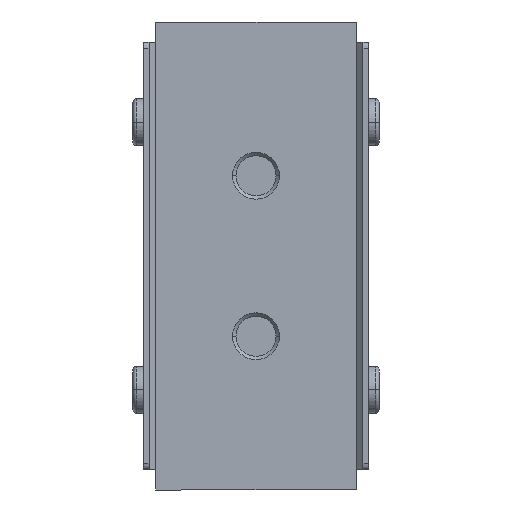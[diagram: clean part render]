
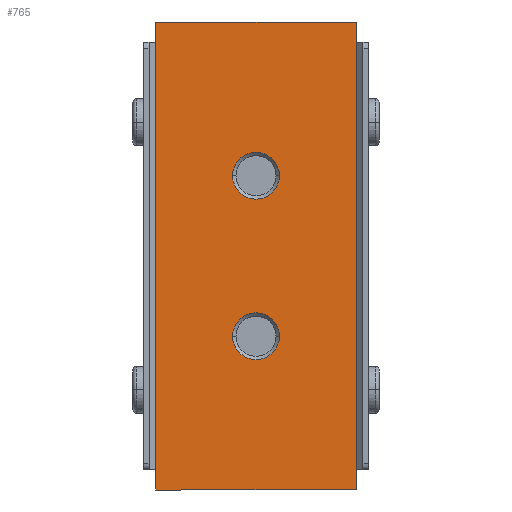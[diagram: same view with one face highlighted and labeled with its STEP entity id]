
A CAD part, left-side view. The second image highlights one B-rep face of the part: STEP entity #765.
In plain terms, the highlighted planar face has unit normal (-1, 0, 0) as drawn and (1, 0, 0) by its records, which use the part's own axes.
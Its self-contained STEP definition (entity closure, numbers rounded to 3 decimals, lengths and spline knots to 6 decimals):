
#765=ADVANCED_FACE('0:2294',(#1583,#1584,#1585),#1586,.F.);
#1583=FACE_OUTER_BOUND('',#2593,.T.);
#1584=FACE_BOUND('',#2594,.T.);
#1585=FACE_BOUND('',#2595,.T.);
#1586=PLANE('',#2596);
#2593=EDGE_LOOP('',(#3960,#3961,#3962,#3963));
#2594=EDGE_LOOP('',(#3964,#3965));
#2595=EDGE_LOOP('',(#3966,#3967));
#2596=AXIS2_PLACEMENT_3D('',#3968,#3969,#3970);
#3960=ORIENTED_EDGE('',*,*,#6288,.F.);
#3961=ORIENTED_EDGE('',*,*,#6290,.T.);
#3962=ORIENTED_EDGE('',*,*,#6231,.F.);
#3963=ORIENTED_EDGE('',*,*,#6259,.F.);
#3964=ORIENTED_EDGE('',*,*,#6174,.F.);
#3965=ORIENTED_EDGE('',*,*,#6135,.F.);
#3966=ORIENTED_EDGE('',*,*,#6172,.F.);
#3967=ORIENTED_EDGE('',*,*,#6140,.F.);
#3968=CARTESIAN_POINT('',(0.067315,0.042372,0.009));
#3969=DIRECTION('',(-1.0,0.0,0.0));
#3970=DIRECTION('',(0.0,0.0,1.0));
#6135=EDGE_CURVE('',#7244,#7246,#7247,.T.);
#6140=EDGE_CURVE('',#7251,#7253,#7254,.T.);
#6172=EDGE_CURVE('0:2354',#7253,#7251,#7298,.T.);
#6174=EDGE_CURVE('0:2360',#7246,#7244,#7300,.T.);
#6231=EDGE_CURVE('0:2483',#7364,#7366,#7367,.T.);
#6259=EDGE_CURVE('0:2531',#7405,#7364,#7407,.T.);
#6288=EDGE_CURVE('0:2591',#7444,#7405,#7446,.T.);
#6290=EDGE_CURVE('0:2594',#7444,#7366,#7448,.T.);
#7244=VERTEX_POINT('',#8796);
#7246=VERTEX_POINT('',#8799);
#7247=CIRCLE('',#8800,0.0035);
#7251=VERTEX_POINT('',#8805);
#7253=VERTEX_POINT('',#8808);
#7254=CIRCLE('',#8809,0.0035);
#7298=CIRCLE('',#8862,0.0035);
#7300=CIRCLE('',#8864,0.0035);
#7364=VERTEX_POINT('',#8933);
#7366=VERTEX_POINT('',#8936);
#7367=LINE('',#8937,#8938);
#7405=VERTEX_POINT('',#8988);
#7407=LINE('',#8991,#8992);
#7444=VERTEX_POINT('',#9043);
#7446=LINE('',#9046,#9047);
#7448=LINE('',#9049,#9050);
#8796=CARTESIAN_POINT('',(0.067315,-0.004628,-0.0095));
#8799=CARTESIAN_POINT('',(0.067315,-0.004628,-0.0025));
#8800=AXIS2_PLACEMENT_3D('',#10745,#10746,#10747);
#8805=CARTESIAN_POINT('',(0.067315,0.019372,-0.0095));
#8808=CARTESIAN_POINT('',(0.067315,0.019372,-0.0025));
#8809=AXIS2_PLACEMENT_3D('',#10753,#10754,#10755);
#8862=AXIS2_PLACEMENT_3D('',#10804,#10805,#10806);
#8864=AXIS2_PLACEMENT_3D('',#10807,#10808,#10809);
#8933=CARTESIAN_POINT('',(0.067315,-0.027628,0.009));
#8936=CARTESIAN_POINT('',(0.067315,0.042372,0.009));
#8937=CARTESIAN_POINT('',(0.067315,0.042372,0.009));
#8938=VECTOR('',#10906,1.0);
#8988=CARTESIAN_POINT('',(0.067315,-0.027628,-0.021));
#8991=CARTESIAN_POINT('',(0.067315,-0.027628,0.009));
#8992=VECTOR('',#10926,1.0);
#9043=CARTESIAN_POINT('',(0.067315,0.042372,-0.021));
#9046=CARTESIAN_POINT('',(0.067315,0.042372,-0.021));
#9047=VECTOR('',#10954,1.0);
#9049=CARTESIAN_POINT('',(0.067315,0.042372,0.009));
#9050=VECTOR('',#10955,1.0);
#10745=CARTESIAN_POINT('',(0.067315,-0.004628,-0.006));
#10746=DIRECTION('',(1.0,0.0,-0.0));
#10747=DIRECTION('',(0.0,0.0,1.0));
#10753=CARTESIAN_POINT('',(0.067315,0.019372,-0.006));
#10754=DIRECTION('',(1.0,0.0,-0.0));
#10755=DIRECTION('',(0.0,0.0,1.0));
#10804=CARTESIAN_POINT('',(0.067315,0.019372,-0.006));
#10805=DIRECTION('',(1.0,0.0,-0.0));
#10806=DIRECTION('',(0.0,0.0,1.0));
#10807=CARTESIAN_POINT('',(0.067315,-0.004628,-0.006));
#10808=DIRECTION('',(1.0,0.0,-0.0));
#10809=DIRECTION('',(0.0,0.0,1.0));
#10906=DIRECTION('',(-0.0,1.0,-0.0));
#10926=DIRECTION('',(0.0,0.0,1.0));
#10954=DIRECTION('',(0.0,-1.0,0.0));
#10955=DIRECTION('',(0.0,0.0,1.0));
